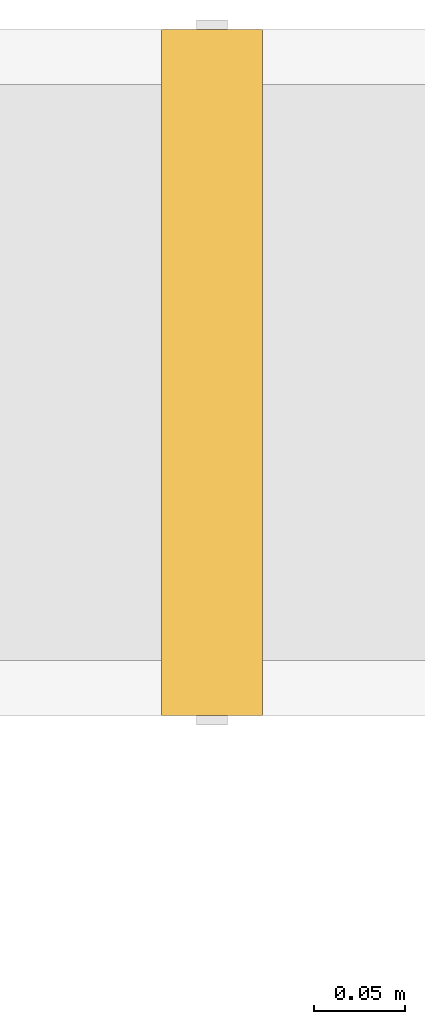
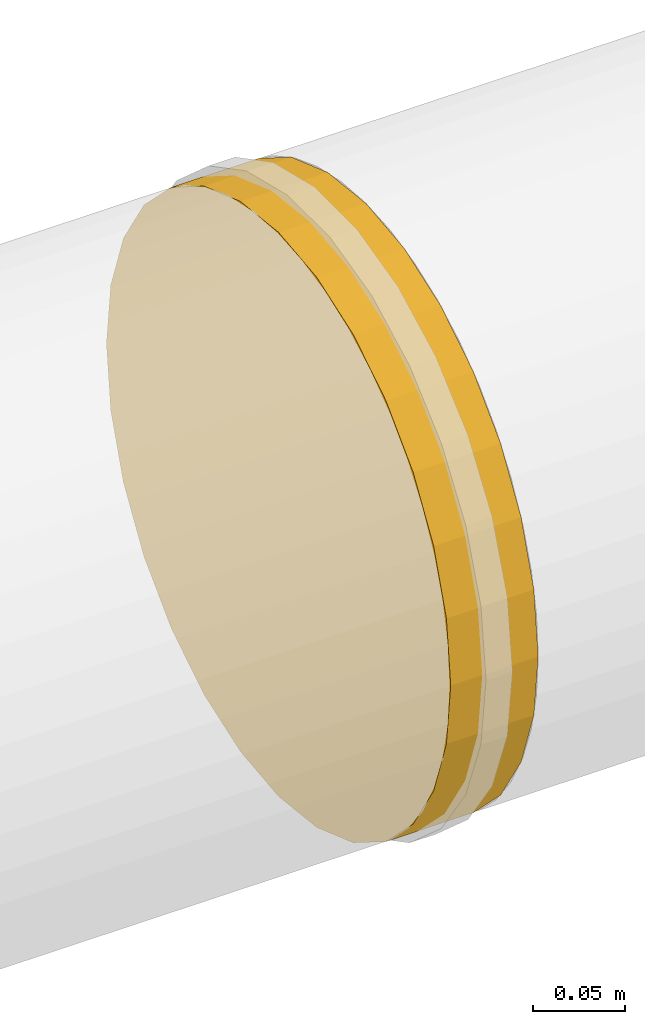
# One storey, part 4 of 7: 1 covering.
"""IFC2X3 building model written with IfcOpenShell, lengths in millimetres."""

import ifcopenshell
import ifcopenshell.guid

model = None  # the IFC model being written
_history = None  # IfcOwnerHistory: only IFC2X3 demands one
_inside = {}  # id of a spatial element -> (the spatial element, [elements in it])
_under = {}  # id of a project, library or spatial element -> (it, [spatial elements below it])
_declared = {}  # id of a project -> (the project, [libraries it declares])
_typed = {}  # id of a type object -> (the type object, [elements of that type])
_made_of = {}  # id of a material, layer set ... -> (it, [elements and type objects made of it])


def new_model(schema):
    """Start an empty IFC model of exactly this schema.

    Asked for "IFC4X3", IfcOpenShell would pick the latest addendum, in which some entities
    have other attributes; the version numbers below select the first issue.
    IFC2X3 requires an IfcOwnerHistory on every rooted entity: one is made here for all.
    """
    global model, _history
    if schema == "IFC4X3":
        model = ifcopenshell.file(schema_version=(4, 3, 0, 0))
    else:
        model = ifcopenshell.file(schema=schema)
    _inside.clear()
    _under.clear()
    _declared.clear()
    _typed.clear()
    _made_of.clear()
    _history = None
    if model.schema == "IFC2X3":
        org = make("IfcOrganization", Name="unknown")
        user = make(
            "IfcPersonAndOrganization",
            ThePerson=make("IfcPerson", FamilyName="unknown"),
            TheOrganization=org,
        )
        app = make(
            "IfcApplication",
            ApplicationDeveloper=org,
            Version="unknown",
            ApplicationFullName="unknown",
            ApplicationIdentifier="unknown",
        )
        _history = make(
            "IfcOwnerHistory",
            OwningUser=user,
            OwningApplication=app,
            ChangeAction="ADDED",
            CreationDate=0,
        )
    return model


def make(cls, **values):
    """One entity of the class cls with the attributes given. An attribute that is None is left unset."""
    return model.create_entity(
        cls, **{name: value for name, value in values.items() if value is not None}
    )


def entity(cls, *values):
    """Any entity or typed value of the class cls, its attributes in the order of the schema. None: left unset."""
    e = model.create_entity(cls)
    for i, value in enumerate(values):
        if value is not None:
            e[i] = value
    return e


def rooted(cls, **values):
    """An entity with a GlobalId (a new one), such as an element, a storey or a relation."""
    return make(cls, GlobalId=ifcopenshell.guid.new(), OwnerHistory=_history, **values)


def si_unit(unit_type, name, prefix=None):
    """IfcSIUnit, for example si_unit("LENGTHUNIT", "METRE", prefix="MILLI")."""
    return make("IfcSIUnit", UnitType=unit_type, Prefix=prefix, Name=name)


def converted_unit(unit_type, name, factor, base, dimensions=None, offset=None):
    """IfcConversionBasedUnit, such as the inch: factor (a typed value) times the base unit."""
    return make(
        "IfcConversionBasedUnit"
        if offset is None
        else "IfcConversionBasedUnitWithOffset",
        ConversionOffset=offset,
        Dimensions=None
        if dimensions is None
        else entity("IfcDimensionalExponents", *dimensions),
        UnitType=unit_type,
        Name=name,
        ConversionFactor=make(
            "IfcMeasureWithUnit", ValueComponent=factor, UnitComponent=base
        ),
    )


def derived_unit(unit_type, elements):
    """IfcDerivedUnit: a product of units, each with its exponent."""
    return make(
        "IfcDerivedUnit",
        Elements=[
            make("IfcDerivedUnitElement", Unit=unit, Exponent=power)
            for unit, power in elements
        ],
        UnitType=unit_type,
    )


def assignment(units):
    """IfcUnitAssignment: the units of a project."""
    return None if units is None else make("IfcUnitAssignment", Units=units)


def point(xyz):
    """IfcCartesianPoint."""
    return None if xyz is None else make("IfcCartesianPoint", Coordinates=xyz)


def direction(xyz):
    """IfcDirection."""
    return None if xyz is None else make("IfcDirection", DirectionRatios=xyz)


def frame(location, z_axis=None, x_axis=None):
    """IfcAxis2Placement3D, a coordinate frame: its origin and axes. An axis left out is left unset."""
    return make(
        "IfcAxis2Placement3D",
        Location=point(location),
        Axis=direction(z_axis),
        RefDirection=direction(x_axis),
    )


def origin_with_axes():
    """The frame at (0, 0, 0) with the z axis (0, 0, 1) and the x axis (1, 0, 0) written out."""
    return frame((0.0, 0.0, 0.0), z_axis=(0.0, 0.0, 1.0), x_axis=(1.0, 0.0, 0.0))


def place(relative_to, where):
    """IfcLocalPlacement: puts the frame where relative to a parent placement (None: the world)."""
    return make(
        "IfcLocalPlacement", PlacementRelTo=relative_to, RelativePlacement=where
    )


def context(
    kind, dimensions, precision=None, world=None, true_north=None, identifier=None
):
    """IfcGeometricRepresentationContext, for example the 3D "Model" context."""
    return make(
        "IfcGeometricRepresentationContext",
        ContextIdentifier=identifier,
        ContextType=kind,
        CoordinateSpaceDimension=dimensions,
        Precision=precision,
        WorldCoordinateSystem=world,
        TrueNorth=true_north,
    )


def subcontext(parent, identifier, kind, view, scale=None):
    """IfcGeometricRepresentationSubContext, for example "Body" below "Model"."""
    return make(
        "IfcGeometricRepresentationSubContext",
        ContextIdentifier=identifier,
        ContextType=kind,
        ParentContext=parent,
        TargetScale=scale,
        TargetView=view,
    )


def project(units=None, contexts=None):
    """IfcProject with its units and contexts."""
    return rooted(
        "IfcProject",
        Name="project",
        RepresentationContexts=contexts,
        UnitsInContext=assignment(units),
    )


def spatial(cls, under=None, at=None, **own):
    """A site, building, storey or space (cls), placed at a placement, below another one or the project."""
    s = rooted(cls, ObjectPlacement=at, **own)
    if under is not None:
        _under.setdefault(under.id(), (under, []))[1].append(s)
    return s


def faces_of(points, faces, orient=None, outer=None):
    """IfcFace entities. A face is a list of loops; a loop is a list of indices into points, from 0.

    orient and outer hold one flag for each loop. By default every Orientation is true, the
    first loop of a face is its IfcFaceOuterBound and the others are IfcFaceBound.
    """
    made = []
    for i, loops in enumerate(faces):
        bounds = []
        for j, loop in enumerate(loops):
            is_outer = j == 0 if outer is None else outer[i][j]
            bounds.append(
                make(
                    "IfcFaceOuterBound" if is_outer else "IfcFaceBound",
                    Bound=make("IfcPolyLoop", Polygon=[points[k] for k in loop]),
                    Orientation=True if orient is None else orient[i][j],
                )
            )
        made.append(make("IfcFace", Bounds=bounds))
    return made


def open_shell(faces, orient=None, outer=None):
    """The faces of one IfcOpenShell. surface_model builds it on its shared points."""
    return ("IfcOpenShell", faces, orient, outer)


def surface_model(cls, points, shells):
    """IfcFaceBasedSurfaceModel or IfcShellBasedSurfaceModel (cls): surfaces that need not close."""
    shared = [point(p) for p in points]
    made = [make(c, CfsFaces=faces_of(shared, fs, o, b)) for c, fs, o, b in shells]
    if cls == "IfcFaceBasedSurfaceModel":
        return make(cls, FbsmFaces=made)
    return make(cls, SbsmBoundary=made)


def shape(context_of_items, identifier, shape_type, items):
    """IfcShapeRepresentation: the items that make up one representation, for example the "Body"."""
    return make(
        "IfcShapeRepresentation",
        ContextOfItems=context_of_items,
        RepresentationIdentifier=identifier,
        RepresentationType=shape_type,
        Items=items,
    )


def source(mapping_origin, context_of_items, identifier, shape_type, items):
    """IfcRepresentationMap: a shape defined once, which mapped items show again and again."""
    return make(
        "IfcRepresentationMap",
        MappingOrigin=mapping_origin,
        MappedRepresentation=shape(context_of_items, identifier, shape_type, items),
    )


def transform(
    local_origin,
    x_axis=None,
    y_axis=None,
    z_axis=None,
    scale=None,
    scale2=None,
    scale3=None,
    uniform=True,
):
    """IfcCartesianTransformationOperator3D, or its non-uniform kind. x_axis, y_axis, z_axis: its Axis1, 2, 3."""
    if uniform:
        return make(
            "IfcCartesianTransformationOperator3D",
            Axis1=direction(x_axis),
            Axis2=direction(y_axis),
            LocalOrigin=point(local_origin),
            Scale=scale,
            Axis3=direction(z_axis),
        )
    return make(
        "IfcCartesianTransformationOperator3DnonUniform",
        Axis1=direction(x_axis),
        Axis2=direction(y_axis),
        LocalOrigin=point(local_origin),
        Scale=scale,
        Axis3=direction(z_axis),
        Scale2=scale2,
        Scale3=scale3,
    )


def mapped(mapping_source, mapping_target):
    """IfcMappedItem: shows the shape of a source again, moved by a transform."""
    return make(
        "IfcMappedItem", MappingSource=mapping_source, MappingTarget=mapping_target
    )


def made_of(thing, what):
    """Note that an element or type object is made of a material, layer set ...; save() writes the relation."""
    if what is not None:
        _made_of.setdefault(what.id(), (what, []))[1].append(thing)
    return thing


def element(
    cls,
    number,
    at=None,
    inside=None,
    cuts=None,
    type_object=None,
    material=None,
    context=None,
    identifier="Body",
    shape_type=None,
    held_by="IfcProductDefinitionShape",
    body=None,
    shapes=None,
    **own,
):
    """One element of the class cls, such as IfcWall. Its Tag is "e" and its number.

    at: its placement. inside: the storey or other place that contains it. cuts: it is an
    opening in that element (IfcRelVoidsElement). A single representation is given by context,
    identifier, shape_type and body (its items); several are given by shapes. held_by: the class
    of the entity that holds the representations. save() writes the other relations.
    """
    e = rooted(cls, Tag="e%d" % number, ObjectPlacement=at, **own)
    if body is not None:
        shapes = [shape(context, identifier, shape_type, body)]
    if shapes is not None:
        e.Representation = make(held_by, Representations=shapes)
    if inside is not None:
        _inside.setdefault(inside.id(), (inside, []))[1].append(e)
    if cuts is not None:
        rooted(
            "IfcRelVoidsElement", RelatingBuildingElement=cuts, RelatedOpeningElement=e
        )
    if type_object is not None:
        _typed.setdefault(type_object.id(), (type_object, []))[1].append(e)
    return made_of(e, material)


def aggregate(whole, parts):
    """IfcRelAggregates: a whole, such as a stair, and the parts it consists of."""
    return rooted("IfcRelAggregates", RelatingObject=whole, RelatedObjects=parts)


def save(model, path):
    """Write the relations noted so far, then the file.

    IfcRelAggregates (storeys below a building ...), IfcRelContainedInSpatialStructure (elements
    in a storey), IfcRelDefinesByType, IfcRelAssociatesMaterial and IfcRelDeclares: one each for
    every whole, place, type object, material and project.
    """
    for whole, parts in _under.values():
        aggregate(whole, parts)
    for where, things in _inside.values():
        rooted(
            "IfcRelContainedInSpatialStructure",
            RelatedElements=things,
            RelatingStructure=where,
        )
    for kind, things in _typed.values():
        rooted("IfcRelDefinesByType", RelatedObjects=things, RelatingType=kind)
    for what, things in _made_of.values():
        rooted("IfcRelAssociatesMaterial", RelatedObjects=things, RelatingMaterial=what)
    for by, libraries in _declared.values():
        rooted("IfcRelDeclares", RelatingContext=by, RelatedDefinitions=libraries)
    model.write(path)


model = new_model("IFC2X3")

# Units and contexts
model_context = context("Model", 3, precision=0.01, world=frame((0.0, 4.29681676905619e-09, 0.0)), true_north=direction((4.01073788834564e-13, 1.0)))
plan_context = context("Plan", 3, precision=0.01, world=frame((0.0, 4.29681676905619e-09, 0.0)), true_north=direction((4.01073788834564e-13, 1.0)))
body_context = subcontext(model_context, "Body", "Model", "MODEL_VIEW")
ifc_project = project(units=[converted_unit("PLANEANGLEUNIT", "DEGREE", entity("IfcPositiveLengthMeasure", 0.0174532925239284), si_unit("PLANEANGLEUNIT", "RADIAN"), dimensions=[0, 0, 0, 0, 0, 0, 0]), si_unit("AREAUNIT", "SQUARE_METRE"), si_unit("LENGTHUNIT", "METRE", prefix="MILLI"), si_unit("MASSUNIT", "GRAM", prefix="KILO"), si_unit("POWERUNIT", "WATT"), si_unit("PRESSUREUNIT", "PASCAL", prefix="KILO"), si_unit("FORCEUNIT", "NEWTON", prefix="KILO"), si_unit("ELECTRICVOLTAGEUNIT", "VOLT"), si_unit("ELECTRICCURRENTUNIT", "AMPERE"), si_unit("THERMODYNAMICTEMPERATUREUNIT", "DEGREE_CELSIUS"), si_unit("TIMEUNIT", "SECOND"), si_unit("VOLUMEUNIT", "CUBIC_METRE"), derived_unit("LINEARVELOCITYUNIT", [(si_unit("LENGTHUNIT", "METRE"), 1), (si_unit("TIMEUNIT", "SECOND"), -1)]), derived_unit("VOLUMETRICFLOWRATEUNIT", [(si_unit("VOLUMEUNIT", "CUBIC_METRE"), 1), (si_unit("TIMEUNIT", "SECOND"), -1)]), derived_unit("THERMALTRANSMITTANCEUNIT", [(si_unit("POWERUNIT", "WATT"), 1), (si_unit("THERMODYNAMICTEMPERATUREUNIT", "KELVIN"), -1), (si_unit("AREAUNIT", "SQUARE_METRE"), -1)]), derived_unit("SOUNDPRESSUREUNIT", [(si_unit("PRESSUREUNIT", "PASCAL"), 1)])], contexts=[model_context, plan_context])

# Site, building, storey
site_placement = place(None, frame((0.0, -4.29681676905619e-09, 0.0), z_axis=(0.0, 0.0, 1.0), x_axis=(1.0, 0.0, 0.0)))
site = spatial("IfcSite", under=ifc_project, at=site_placement, CompositionType="ELEMENT")
building_placement = place(site_placement, frame((0.0, 4.29681676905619e-09, 0.0), z_axis=(0.0, 0.0, 1.0), x_axis=(1.0, 0.0, 0.0)))
building = spatial("IfcBuilding", under=site, at=building_placement, Name="mc-building", CompositionType="ELEMENT")
storey_placement = place(building_placement, frame((0.0, 0.0, 207370.0), z_axis=(0.0, 0.0, 1.0), x_axis=(1.0, 0.0, 0.0)))
storey = spatial("IfcBuildingStorey", under=building, at=storey_placement, Name="Nivå E", CompositionType="ELEMENT", Elevation=207370.0)

# Covering
shared_shape = source(origin_with_axes(), body_context, "Body", "SurfaceModel", [
    surface_model("IfcShellBasedSurfaceModel", [(27.5, 81.3532, -168.93166), (27.5, 0.0, -187.5), (27.5, 41.72268, -182.79898), (27.5, 146.5934, -116.90434), (27.5, 116.90434, -146.5934), (27.5, 182.79898, -41.72268), (27.5, -146.5934, -116.90434), (27.5, 168.93166, -81.3532), (27.5, -187.5, 0.0), (27.5, -81.3532, -168.93166), (27.5, -41.72268, -182.79898), (27.5, -116.90434, -146.5934), (27.5, -182.79898, -41.72268), (27.5, -168.93166, -81.3532), (27.5, 187.5, 0.0), (27.5, 41.72268, 182.79898), (27.5, 182.79898, 41.72268), (27.5, 168.93166, 81.3532), (27.5, 81.3532, 168.93166), (27.5, 146.5934, 116.90434), (27.5, -182.79898, 41.72268), (27.5, 116.90434, 146.5934), (27.5, 0.0, 187.5), (27.5, -116.90434, 146.5934), (27.5, -168.93166, 81.3532), (27.5, -81.3532, 168.93166), (27.5, -146.5934, 116.90434), (27.5, -41.72268, 182.79898), (-27.5, 41.72268, 182.79898), (-27.5, -81.3532, 168.93166), (-27.5, 0.0, 187.5), (-27.5, 116.90434, 146.5934), (-27.5, 81.3532, 168.93166), (-27.5, 182.79898, 41.72268), (-27.5, 168.93166, 81.3532), (-27.5, 146.5934, 116.90434), (-27.5, 81.3532, -168.93166), (-27.5, -182.79898, 41.72268), (-27.5, -116.90434, 146.5934), (-27.5, -41.72268, 182.79898), (-27.5, -146.5934, 116.90434), (-27.5, -168.93166, 81.3532), (-27.5, -182.79898, -41.72268), (-27.5, -187.5, 0.0), (-27.5, 182.79898, -41.72268), (-27.5, 146.5934, -116.90434), (-27.5, 168.93166, -81.3532), (-27.5, 116.90434, -146.5934), (-27.5, -146.5934, -116.90434), (-27.5, 0.0, -187.5), (-27.5, 41.72268, -182.79898), (-27.5, -168.93166, -81.3532), (-27.5, -41.72268, -182.79898), (-27.5, -81.3532, -168.93166), (-27.5, -116.90434, -146.5934), (-27.5, 187.5, 0.0)], [open_shell([[[0, 1, 2]], [[3, 0, 4]], [[5, 6, 0]], [[3, 7, 5]], [[0, 3, 5]], [[5, 8, 6]], [[1, 9, 10]], [[1, 0, 9]], [[11, 9, 6]], [[12, 13, 6]], [[6, 9, 0]], [[6, 8, 12]], [[8, 5, 14]], [[15, 16, 17]], [[18, 17, 19]], [[18, 15, 17]], [[15, 20, 16]], [[19, 21, 18]], [[20, 15, 22]], [[20, 23, 24]], [[20, 8, 16]], [[23, 20, 25]], [[26, 24, 23]], [[22, 25, 20]], [[22, 27, 25]], [[16, 8, 14]], [[28, 29, 30]], [[31, 28, 32]], [[33, 28, 34]], [[31, 35, 34]], [[28, 31, 34]], [[36, 37, 28]], [[29, 37, 38]], [[29, 39, 30]], [[40, 38, 41]], [[41, 38, 37]], [[37, 29, 28]], [[37, 42, 43]], [[44, 28, 33]], [[28, 44, 36]], [[45, 44, 46]], [[45, 47, 36]], [[48, 37, 36]], [[36, 44, 45]], [[49, 36, 50]], [[42, 48, 51]], [[37, 48, 42]], [[49, 52, 53]], [[54, 48, 53]], [[48, 36, 53]], [[49, 53, 36]], [[44, 33, 55]], [[16, 55, 33]], [[33, 34, 17]], [[35, 19, 34]], [[14, 55, 16]], [[17, 16, 33]], [[19, 17, 34]], [[35, 21, 19]], [[31, 32, 18]], [[32, 28, 18]], [[15, 28, 30]], [[18, 21, 31]], [[15, 18, 28]], [[30, 22, 15]], [[31, 21, 35]], [[27, 30, 39]], [[39, 29, 25]], [[38, 23, 29]], [[22, 30, 27]], [[25, 27, 39]], [[23, 25, 29]], [[38, 26, 23]], [[24, 40, 41]], [[37, 43, 8]], [[20, 41, 37]], [[26, 40, 24]], [[8, 20, 37]], [[41, 20, 24]], [[40, 26, 38]], [[12, 43, 42]], [[42, 51, 13]], [[48, 6, 51]], [[8, 43, 12]], [[13, 12, 42]], [[6, 13, 51]], [[48, 11, 6]], [[9, 54, 53]], [[53, 52, 10]], [[49, 1, 52]], [[11, 54, 9]], [[10, 9, 53]], [[1, 10, 52]], [[54, 11, 48]], [[2, 49, 50]], [[50, 36, 0]], [[47, 4, 36]], [[1, 49, 2]], [[0, 2, 50]], [[4, 0, 36]], [[47, 3, 4]], [[7, 45, 46]], [[46, 44, 5]], [[55, 14, 44]], [[3, 45, 7]], [[5, 7, 46]], [[14, 5, 44]], [[45, 3, 47]]])]),
])
covering_placement = place(storey_placement, frame((603005.11721, 404951.79391, 120.0), z_axis=(0.0, 0.0, 1.0), x_axis=(1.0, 0.0, 0.0)))
element("IfcCovering", 1, at=covering_placement, inside=storey, Name="EI30-30", PredefinedType="INSULATION", context=body_context, shape_type="MappedRepresentation", body=[
    mapped(shared_shape, transform((0.0, 0.0, 0.0), scale=1.0)),
])

save(model, "model.ifc")
